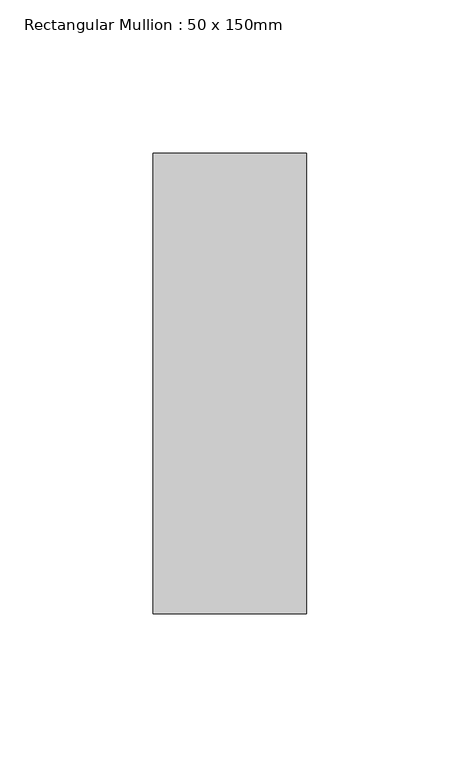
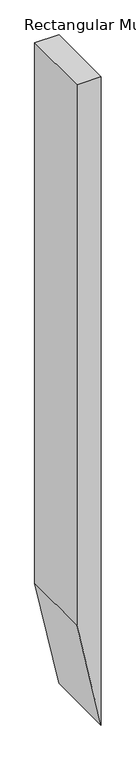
"""IFC4 building model written with IfcOpenShell, lengths in millimetres: member geometry, Rectangular Mullion : 50 x 150mm."""

import ifcopenshell
import ifcopenshell.guid

model = None  # the IFC model being written
_history = None  # IfcOwnerHistory: only IFC2X3 demands one
_inside = {}  # id of a spatial element -> (the spatial element, [elements in it])
_under = {}  # id of a project, library or spatial element -> (it, [spatial elements below it])
_declared = {}  # id of a project -> (the project, [libraries it declares])
_typed = {}  # id of a type object -> (the type object, [elements of that type])
_made_of = {}  # id of a material, layer set ... -> (it, [elements and type objects made of it])


def new_model(schema):
    """Start an empty IFC model of exactly this schema.

    Asked for "IFC4X3", IfcOpenShell would pick the latest addendum, in which some entities
    have other attributes; the version numbers below select the first issue.
    IFC2X3 requires an IfcOwnerHistory on every rooted entity: one is made here for all.
    """
    global model, _history
    if schema == "IFC4X3":
        model = ifcopenshell.file(schema_version=(4, 3, 0, 0))
    else:
        model = ifcopenshell.file(schema=schema)
    _inside.clear()
    _under.clear()
    _declared.clear()
    _typed.clear()
    _made_of.clear()
    _history = None
    if model.schema == "IFC2X3":
        org = make("IfcOrganization", Name="unknown")
        user = make(
            "IfcPersonAndOrganization",
            ThePerson=make("IfcPerson", FamilyName="unknown"),
            TheOrganization=org,
        )
        app = make(
            "IfcApplication",
            ApplicationDeveloper=org,
            Version="unknown",
            ApplicationFullName="unknown",
            ApplicationIdentifier="unknown",
        )
        _history = make(
            "IfcOwnerHistory",
            OwningUser=user,
            OwningApplication=app,
            ChangeAction="ADDED",
            CreationDate=0,
        )
    return model


def make(cls, **values):
    """One entity of the class cls with the attributes given. An attribute that is None is left unset."""
    return model.create_entity(
        cls, **{name: value for name, value in values.items() if value is not None}
    )


def rooted(cls, **values):
    """An entity with a GlobalId (a new one), such as an element, a storey or a relation."""
    return make(cls, GlobalId=ifcopenshell.guid.new(), OwnerHistory=_history, **values)


def si_unit(unit_type, name, prefix=None):
    """IfcSIUnit, for example si_unit("LENGTHUNIT", "METRE", prefix="MILLI")."""
    return make("IfcSIUnit", UnitType=unit_type, Prefix=prefix, Name=name)


def assignment(units):
    """IfcUnitAssignment: the units of a project."""
    return None if units is None else make("IfcUnitAssignment", Units=units)


def point(xyz):
    """IfcCartesianPoint."""
    return None if xyz is None else make("IfcCartesianPoint", Coordinates=xyz)


def direction(xyz):
    """IfcDirection."""
    return None if xyz is None else make("IfcDirection", DirectionRatios=xyz)


def frame(location, z_axis=None, x_axis=None):
    """IfcAxis2Placement3D, a coordinate frame: its origin and axes. An axis left out is left unset."""
    return make(
        "IfcAxis2Placement3D",
        Location=point(location),
        Axis=direction(z_axis),
        RefDirection=direction(x_axis),
    )


def origin():
    """The frame at (0, 0, 0) with its axes left unset."""
    return frame((0.0, 0.0, 0.0))


def place(relative_to, where):
    """IfcLocalPlacement: puts the frame where relative to a parent placement (None: the world)."""
    return make(
        "IfcLocalPlacement", PlacementRelTo=relative_to, RelativePlacement=where
    )


def context(
    kind, dimensions, precision=None, world=None, true_north=None, identifier=None
):
    """IfcGeometricRepresentationContext, for example the 3D "Model" context."""
    return make(
        "IfcGeometricRepresentationContext",
        ContextIdentifier=identifier,
        ContextType=kind,
        CoordinateSpaceDimension=dimensions,
        Precision=precision,
        WorldCoordinateSystem=world,
        TrueNorth=true_north,
    )


def project(units=None, contexts=None):
    """IfcProject with its units and contexts."""
    return rooted(
        "IfcProject",
        Name="project",
        RepresentationContexts=contexts,
        UnitsInContext=assignment(units),
    )


def spatial(cls, under=None, at=None, **own):
    """A site, building, storey or space (cls), placed at a placement, below another one or the project."""
    s = rooted(cls, ObjectPlacement=at, **own)
    if under is not None:
        _under.setdefault(under.id(), (under, []))[1].append(s)
    return s


def polyline(points):
    """IfcPolyline through the points."""
    return make("IfcPolyline", Points=[point(p) for p in points])


def outline(outer, holes=None, kind="AREA"):
    """IfcArbitraryClosedProfileDef: a profile drawn as a closed curve; with holes, ...WithVoids."""
    if holes is None:
        return make("IfcArbitraryClosedProfileDef", ProfileType=kind, OuterCurve=outer)
    return make(
        "IfcArbitraryProfileDefWithVoids",
        ProfileType=kind,
        OuterCurve=outer,
        InnerCurves=holes,
    )


def extrude(swept, where, along, depth):
    """IfcExtrudedAreaSolid: the profile swept, set in the frame where, extruded along a direction by depth."""
    return make(
        "IfcExtrudedAreaSolid",
        SweptArea=swept,
        Position=where,
        ExtrudedDirection=direction(along),
        Depth=depth,
    )


def shape(context_of_items, identifier, shape_type, items):
    """IfcShapeRepresentation: the items that make up one representation, for example the "Body"."""
    return make(
        "IfcShapeRepresentation",
        ContextOfItems=context_of_items,
        RepresentationIdentifier=identifier,
        RepresentationType=shape_type,
        Items=items,
    )


def source(mapping_origin, context_of_items, identifier, shape_type, items):
    """IfcRepresentationMap: a shape defined once, which mapped items show again and again."""
    return make(
        "IfcRepresentationMap",
        MappingOrigin=mapping_origin,
        MappedRepresentation=shape(context_of_items, identifier, shape_type, items),
    )


def transform(
    local_origin,
    x_axis=None,
    y_axis=None,
    z_axis=None,
    scale=None,
    scale2=None,
    scale3=None,
    uniform=True,
):
    """IfcCartesianTransformationOperator3D, or its non-uniform kind. x_axis, y_axis, z_axis: its Axis1, 2, 3."""
    if uniform:
        return make(
            "IfcCartesianTransformationOperator3D",
            Axis1=direction(x_axis),
            Axis2=direction(y_axis),
            LocalOrigin=point(local_origin),
            Scale=scale,
            Axis3=direction(z_axis),
        )
    return make(
        "IfcCartesianTransformationOperator3DnonUniform",
        Axis1=direction(x_axis),
        Axis2=direction(y_axis),
        LocalOrigin=point(local_origin),
        Scale=scale,
        Axis3=direction(z_axis),
        Scale2=scale2,
        Scale3=scale3,
    )


def mapped(mapping_source, mapping_target):
    """IfcMappedItem: shows the shape of a source again, moved by a transform."""
    return make(
        "IfcMappedItem", MappingSource=mapping_source, MappingTarget=mapping_target
    )


def made_of(thing, what):
    """Note that an element or type object is made of a material, layer set ...; save() writes the relation."""
    if what is not None:
        _made_of.setdefault(what.id(), (what, []))[1].append(thing)
    return thing


def element(
    cls,
    number,
    at=None,
    inside=None,
    cuts=None,
    type_object=None,
    material=None,
    context=None,
    identifier="Body",
    shape_type=None,
    held_by="IfcProductDefinitionShape",
    body=None,
    shapes=None,
    **own,
):
    """One element of the class cls, such as IfcWall. Its Tag is "e" and its number.

    at: its placement. inside: the storey or other place that contains it. cuts: it is an
    opening in that element (IfcRelVoidsElement). A single representation is given by context,
    identifier, shape_type and body (its items); several are given by shapes. held_by: the class
    of the entity that holds the representations. save() writes the other relations.
    """
    e = rooted(cls, Tag="e%d" % number, ObjectPlacement=at, **own)
    if body is not None:
        shapes = [shape(context, identifier, shape_type, body)]
    if shapes is not None:
        e.Representation = make(held_by, Representations=shapes)
    if inside is not None:
        _inside.setdefault(inside.id(), (inside, []))[1].append(e)
    if cuts is not None:
        rooted(
            "IfcRelVoidsElement", RelatingBuildingElement=cuts, RelatedOpeningElement=e
        )
    if type_object is not None:
        _typed.setdefault(type_object.id(), (type_object, []))[1].append(e)
    return made_of(e, material)


def aggregate(whole, parts):
    """IfcRelAggregates: a whole, such as a stair, and the parts it consists of."""
    return rooted("IfcRelAggregates", RelatingObject=whole, RelatedObjects=parts)


def save(model, path):
    """Write the relations noted so far, then the file.

    IfcRelAggregates (storeys below a building ...), IfcRelContainedInSpatialStructure (elements
    in a storey), IfcRelDefinesByType, IfcRelAssociatesMaterial and IfcRelDeclares: one each for
    every whole, place, type object, material and project.
    """
    for whole, parts in _under.values():
        aggregate(whole, parts)
    for where, things in _inside.values():
        rooted(
            "IfcRelContainedInSpatialStructure",
            RelatedElements=things,
            RelatingStructure=where,
        )
    for kind, things in _typed.values():
        rooted("IfcRelDefinesByType", RelatedObjects=things, RelatingType=kind)
    for what, things in _made_of.values():
        rooted("IfcRelAssociatesMaterial", RelatedObjects=things, RelatingMaterial=what)
    for by, libraries in _declared.values():
        rooted("IfcRelDeclares", RelatingContext=by, RelatedDefinitions=libraries)
    model.write(path)


def rectangular_mullion_50_x_150mm_5e9d6b44(model_context):
    return source(origin(), model_context, "Body", "SweptSolid", [
        extrude(outline(polyline([(0.0, 25.0), (0.0, -25.0), (-1172.6176423, -25.0), (-1406.4363577, 25.0), (0.0, 25.0)])), frame((0.0, -75.0, 0.0), z_axis=(0.0, 1.0, 0.0), x_axis=(0.0, 0.0, 1.0)), (0.0, 0.0, 1.0), 150.0),
    ])


if __name__ == "__main__":
    model = new_model("IFC4")
    model_context = context("Model", 3, world=origin())
    ifc_project = project(units=[si_unit("LENGTHUNIT", "METRE", prefix="MILLI")], contexts=[model_context])
    site = spatial("IfcSite", under=ifc_project)
    building = spatial("IfcBuilding", under=site)
    placement = place(None, origin())
    rectangular_mullion_50_x_150mm_shape = rectangular_mullion_50_x_150mm_5e9d6b44(model_context)
    element("IfcMember", 1, ObjectType="Rectangular Mullion : 50 x 150mm", at=placement, inside=building, context=model_context, shape_type="MappedRepresentation", body=[
        mapped(rectangular_mullion_50_x_150mm_shape, transform((0.0, 0.0, 0.0), x_axis=(1.0, 0.0, 0.0), y_axis=(0.0, 1.0, 0.0), z_axis=(0.0, 0.0, 1.0))),
    ])
    save(model, "model.ifc")
